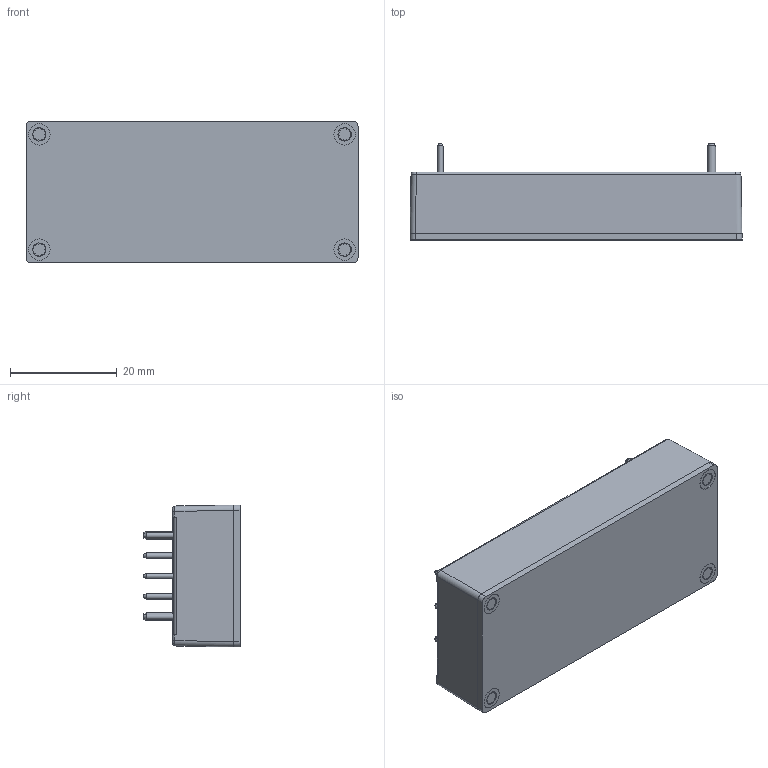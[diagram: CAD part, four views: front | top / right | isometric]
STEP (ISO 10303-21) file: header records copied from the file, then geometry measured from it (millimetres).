
FILE_DESCRIPTION (( 'STEP AP203' ), '1' );
FILE_NAME ('CEB100W成品圖2024.05.09.STEP', '2024-05-10T02:23:16', ( '' ), ( '' ), 'SwSTEP 2.0', 'SolidWorks 2020', '' );
FILE_SCHEMA (( 'CONFIG_CONTROL_DESIGN' ));
Length unit declared in the file: millimetre
Products named in the file (1): CEB100W成品圖2024.05.09
Bounding box: 62.2 x 18 x 26.6 mm (x, y, z)
Volume: 20697.3 mm3; surface area: 6390.8 mm2
Topology: 1 solids, 3 shells, 406 faces, 985 edges, 651 vertices
Faces by surface type: cylinder 191, plane 188, cone 19, bspline 8
Full cylindrical faces by diameter (mm): 1 x6, 1.2 x6, 1.5 x8, 1.7 x2, 2 x2, 4 x4
Entity records: 11909 total; most frequent: CARTESIAN_POINT 2223, DIRECTION 2090, ORIENTED_EDGE 1860, EDGE_CURVE 930, AXIS2_PLACEMENT_3D 791, VERTEX_POINT 640, EDGE_LOOP 532, LINE 508
